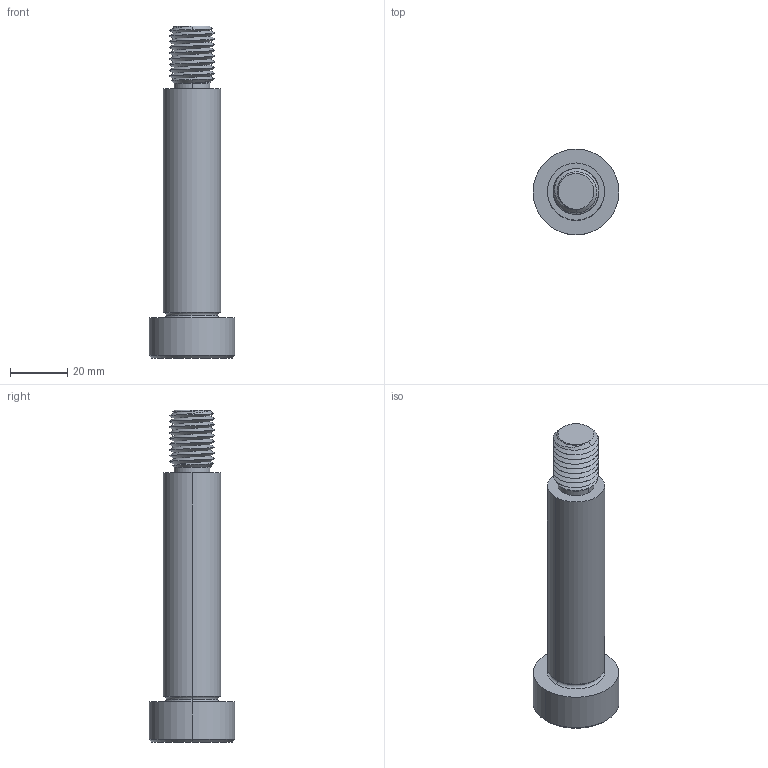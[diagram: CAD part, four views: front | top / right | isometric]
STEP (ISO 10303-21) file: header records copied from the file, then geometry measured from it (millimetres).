
FILE_DESCRIPTION (( 'STEP AP203' ), '1' );
FILE_NAME ('P0130.200-080-B2.step', '2021-11-09T22:26:41', ( '' ), ( '' ), 'SwSTEP 2.0', 'SolidWorks 2019', '' );
FILE_SCHEMA (( 'CONFIG_CONTROL_DESIGN' ));
Length unit declared in the file: millimetre
Products named in the file (1): P0130.200-080-B2
Bounding box: 30 x 30 x 116 mm (x, y, z)
Volume: 37331.6 mm3; surface area: 9930.4 mm2
Topology: 1 solids, 1 shells, 60 faces, 142 edges, 85 vertices
Faces by surface type: cylinder 24, plane 16, cone 14, torus 4, bspline 2
Entity records: 5678 total; most frequent: CARTESIAN_POINT 4332, ORIENTED_EDGE 280, DIRECTION 247, EDGE_CURVE 140, AXIS2_PLACEMENT_3D 99, VERTEX_POINT 85, EDGE_LOOP 63, FACE_OUTER_BOUND 60
